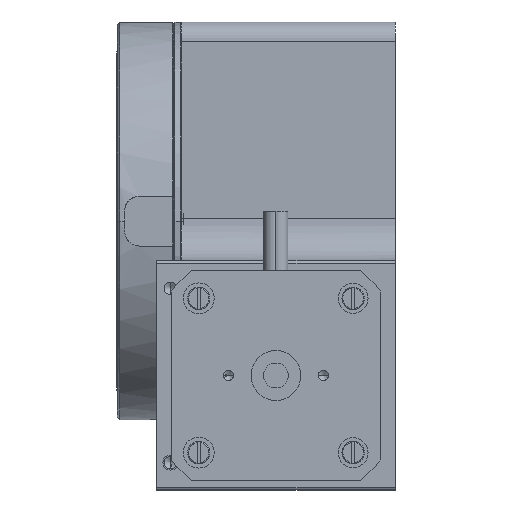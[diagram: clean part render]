
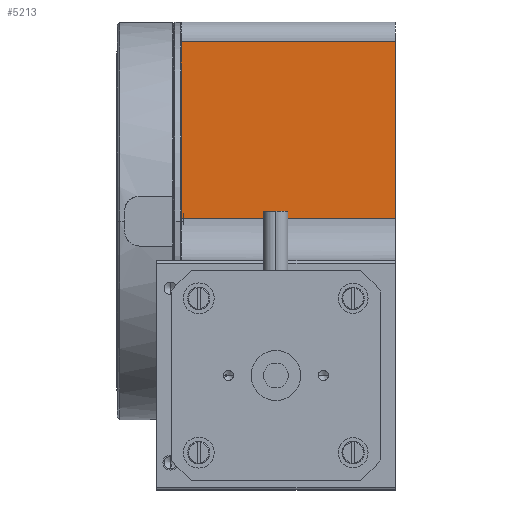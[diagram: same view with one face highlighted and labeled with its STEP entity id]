
A CAD part, left-side view. The second image highlights one B-rep face of the part: STEP entity #5213.
In plain terms, the highlighted planar face has unit normal (-1, 0, 0).
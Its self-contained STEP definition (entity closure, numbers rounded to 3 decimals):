
#5074 = VERTEX_POINT ( 'NONE', #13470 ) ;
#5213 = ADVANCED_FACE ( 'NONE', ( #64154 ), #8312, .F. ) ;
#6877 = CARTESIAN_POINT ( 'NONE',  ( -40., 0., 0.5 ) ) ;
#8067 = DIRECTION ( 'NONE',  ( 0., 0., -1. ) ) ;
#8090 = DIRECTION ( 'NONE',  ( 1., 0., 0. ) ) ;
#8256 = CARTESIAN_POINT ( 'NONE',  ( -40., 48., 40. ) ) ;
#8312 = PLANE ( 'NONE',  #51477 ) ;
#13470 = CARTESIAN_POINT ( 'NONE',  ( -40., 43., 36. ) ) ;
#13522 = CARTESIAN_POINT ( 'NONE',  ( -40., 48., 0.5 ) ) ;
#16874 = VERTEX_POINT ( 'NONE', #22804 ) ;
#17373 = EDGE_CURVE ( 'NONE', #55074, #16874, #67882, .T. ) ;
#20540 = DIRECTION ( 'NONE',  ( 0., 0., 1. ) ) ;
#22173 = LINE ( 'NONE', #45252, #62746 ) ;
#22804 = CARTESIAN_POINT ( 'NONE',  ( -40., 0., 36. ) ) ;
#23477 = CARTESIAN_POINT ( 'NONE',  ( -40., 0., 40. ) ) ;
#23705 = ORIENTED_EDGE ( 'NONE', *, *, #38575, .F. ) ;
#23715 = DIRECTION ( 'NONE',  ( 0., 0., 1. ) ) ;
#28768 = EDGE_CURVE ( 'NONE', #55074, #63393, #35551, .T. ) ;
#31170 = ORIENTED_EDGE ( 'NONE', *, *, #28768, .F. ) ;
#35551 = LINE ( 'NONE', #13522, #64704 ) ;
#38575 = EDGE_CURVE ( 'NONE', #63393, #5074, #69119, .T. ) ;
#45252 = CARTESIAN_POINT ( 'NONE',  ( -40., 48., 36. ) ) ;
#47229 = EDGE_CURVE ( 'NONE', #5074, #16874, #22173, .T. ) ;
#50794 = DIRECTION ( 'NONE',  ( 0., -1., 0. ) ) ;
#51477 = AXIS2_PLACEMENT_3D ( 'NONE', #8256, #8090, #8067 ) ;
#51717 = VECTOR ( 'NONE', #23715, 1000. ) ;
#52951 = VECTOR ( 'NONE', #20540, 1000. ) ;
#55074 = VERTEX_POINT ( 'NONE', #6877 ) ;
#57626 = CARTESIAN_POINT ( 'NONE',  ( -40., 43., 0.5 ) ) ;
#57735 = DIRECTION ( 'NONE',  ( 0., 1., 0. ) ) ;
#59138 = ORIENTED_EDGE ( 'NONE', *, *, #47229, .F. ) ;
#60870 = EDGE_LOOP ( 'NONE', ( #59138, #23705, #31170, #71070 ) ) ;
#62746 = VECTOR ( 'NONE', #50794, 1000. ) ;
#63393 = VERTEX_POINT ( 'NONE', #57626 ) ;
#64154 = FACE_OUTER_BOUND ( 'NONE', #60870, .T. ) ;
#64607 = CARTESIAN_POINT ( 'NONE',  ( -40., 43., 40. ) ) ;
#64704 = VECTOR ( 'NONE', #57735, 1000. ) ;
#67882 = LINE ( 'NONE', #23477, #51717 ) ;
#69119 = LINE ( 'NONE', #64607, #52951 ) ;
#71070 = ORIENTED_EDGE ( 'NONE', *, *, #17373, .T. ) ;
